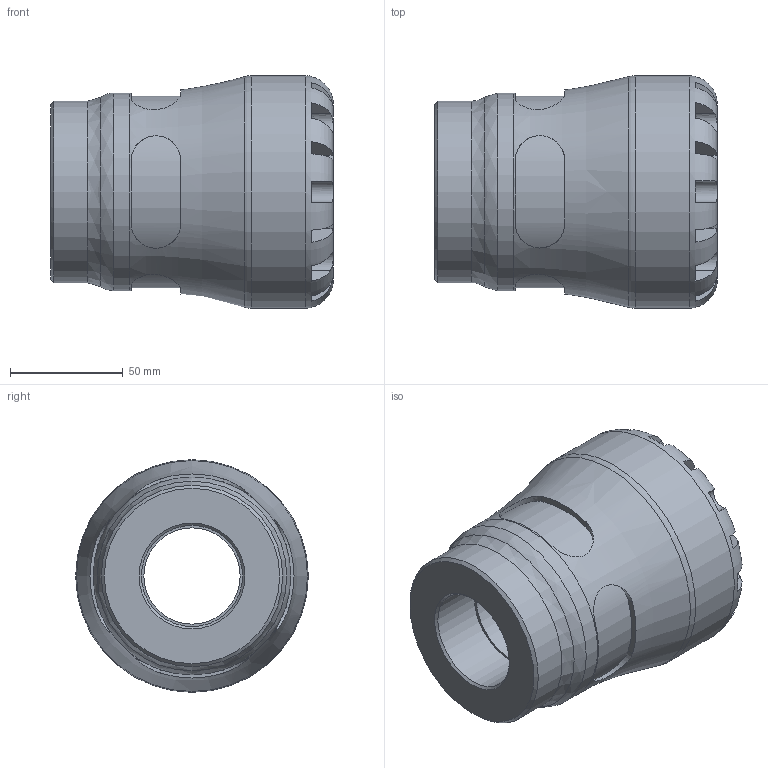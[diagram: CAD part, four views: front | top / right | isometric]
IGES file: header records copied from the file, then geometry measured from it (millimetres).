
Global section: file name: 100300063015_190300063015.ipt; native system: Autodesk Inventor 2015; preprocessor: unknown; author: KIM; date: 20170122.095002; units: millimetre
Bounding box: 125 x 103 x 103 mm (x, y, z)
Volume: 494802.5 mm3; surface area: 71958.1 mm2
Topology: 1 solids, 1 shells, 104 faces, 270 edges, 174 vertices
Faces by surface type: plane 61, revolution 27, cylinder 15, cone 1
Full cylindrical faces by diameter (mm): 80.34 x1, 87.55 x1, 103 x1
